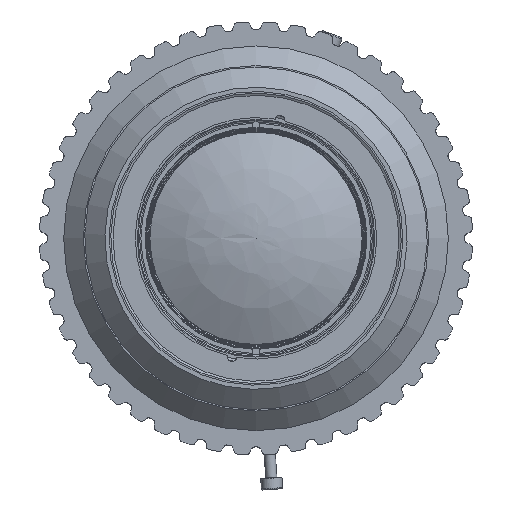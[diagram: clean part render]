
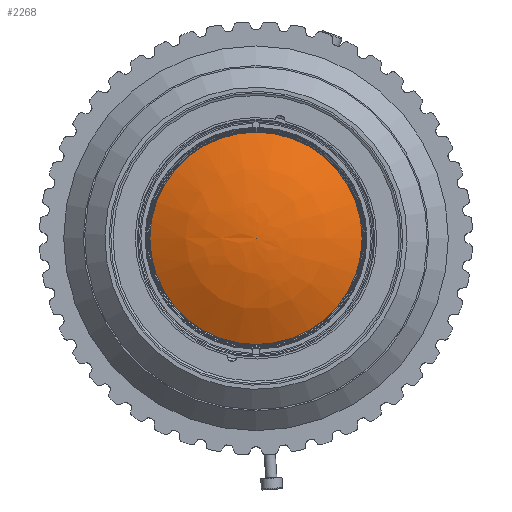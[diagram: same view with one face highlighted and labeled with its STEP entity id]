
A CAD part, left-side view. The second image highlights one B-rep face of the part: STEP entity #2268.
In plain terms, the highlighted face is a revolution surface.
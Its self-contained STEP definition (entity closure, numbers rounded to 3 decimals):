
#110=SURFACE_OF_REVOLUTION('',#18172,#112);
#112=AXIS1_PLACEMENT('',#46764,#34244);
#114=VERTEX_LOOP('',#14244);
#959=FACE_BOUND('',#114,.T.);
#960=FACE_BOUND('',#5416,.T.);
#2268=ADVANCED_FACE('',(#959,#960),#110,.T.);
#5416=EDGE_LOOP('',(#11255));
#11255=ORIENTED_EDGE('',*,*,#14730,.T.);
#12499=VERTEX_POINT('',#40172);
#14244=VERTEX_POINT('',#46739);
#14730=EDGE_CURVE('',#12499,#12499,#18448,.T.);
#18172=B_SPLINE_CURVE_WITH_KNOTS('',3,(#46740,#46741,#46742,#46743,#46744,
#46745,#46746,#46747,#46748,#46749,#46750,#46751,#46752,#46753,#46754,#46755,
#46756,#46757,#46758,#46759,#46760,#46761,#46762,#46763),.UNSPECIFIED.,
 .F.,.F.,(4,1,1,1,1,1,1,1,1,1,1,1,1,1,1,1,1,1,1,1,1,4),(0.,0.064,
0.129,0.193,0.257,0.322,
0.386,0.45,0.515,0.579,
0.643,0.708,0.74,0.772,
0.804,0.836,0.868,0.9,
0.933,0.965,0.997,1.),.UNSPECIFIED.);
#18448=CIRCLE('',#25083,18.9);
#25083=AXIS2_PLACEMENT_3D('',#40171,#28487,#28488);
#28487=DIRECTION('',(-1.,0.,0.));
#28488=DIRECTION('',(0.,0.,-1.));
#34244=DIRECTION('',(1.,0.,0.));
#40171=CARTESIAN_POINT('',(14.695,0.,0.));
#40172=CARTESIAN_POINT('',(14.695,0.,-18.9));
#46739=CARTESIAN_POINT('',(10.,0.,0.));
#46740=CARTESIAN_POINT('',(10.,0.,0.));
#46741=CARTESIAN_POINT('',(10.,0.405,0.));
#46742=CARTESIAN_POINT('',(10.012,1.216,0.));
#46743=CARTESIAN_POINT('',(10.067,2.431,0.));
#46744=CARTESIAN_POINT('',(10.159,3.647,0.));
#46745=CARTESIAN_POINT('',(10.288,4.863,0.));
#46746=CARTESIAN_POINT('',(10.454,6.078,0.));
#46747=CARTESIAN_POINT('',(10.658,7.294,0.));
#46748=CARTESIAN_POINT('',(10.9,8.509,0.));
#46749=CARTESIAN_POINT('',(11.182,9.725,0.));
#46750=CARTESIAN_POINT('',(11.503,10.941,0.));
#46751=CARTESIAN_POINT('',(11.866,12.156,0.));
#46752=CARTESIAN_POINT('',(12.203,13.169,0.));
#46753=CARTESIAN_POINT('',(12.495,13.98,0.));
#46754=CARTESIAN_POINT('',(12.725,14.588,0.));
#46755=CARTESIAN_POINT('',(12.966,15.195,0.));
#46756=CARTESIAN_POINT('',(13.218,15.803,0.));
#46757=CARTESIAN_POINT('',(13.482,16.411,0.));
#46758=CARTESIAN_POINT('',(13.759,17.019,0.));
#46759=CARTESIAN_POINT('',(14.047,17.627,0.));
#46760=CARTESIAN_POINT('',(14.348,18.234,0.));
#46761=CARTESIAN_POINT('',(14.568,18.659,0.));
#46762=CARTESIAN_POINT('',(14.685,18.881,0.));
#46763=CARTESIAN_POINT('',(14.695,18.9,0.));
#46764=CARTESIAN_POINT('',(10.,0.,0.));
